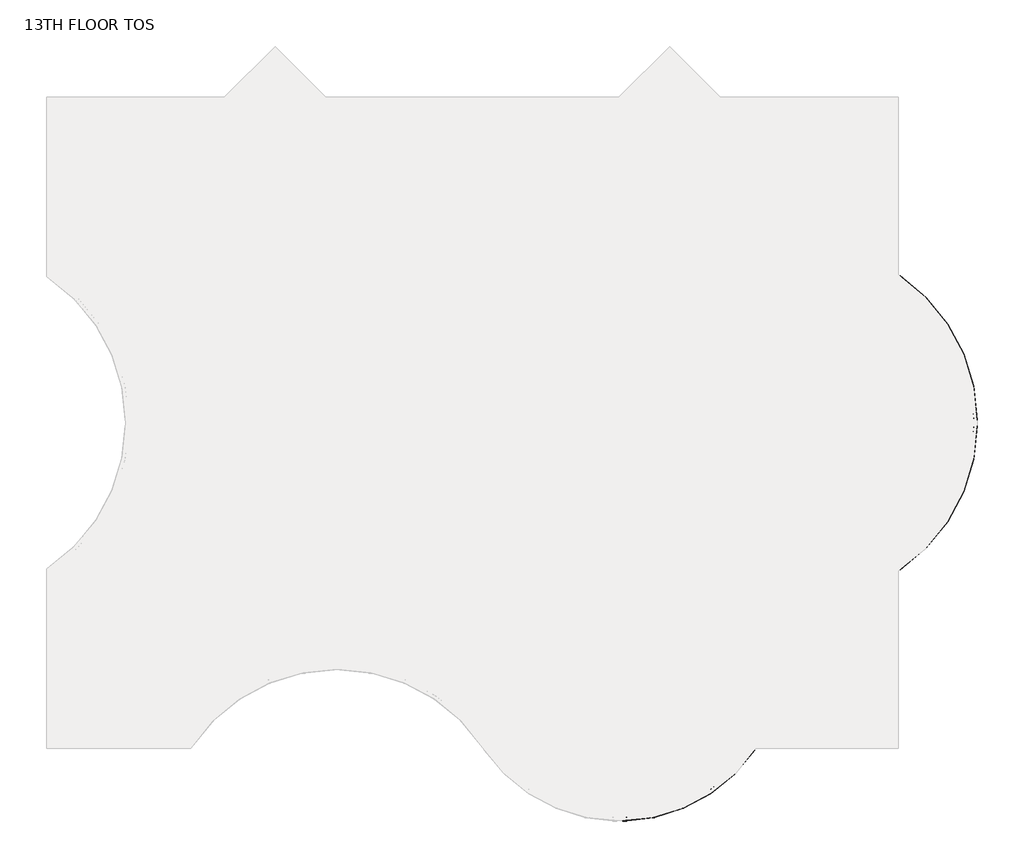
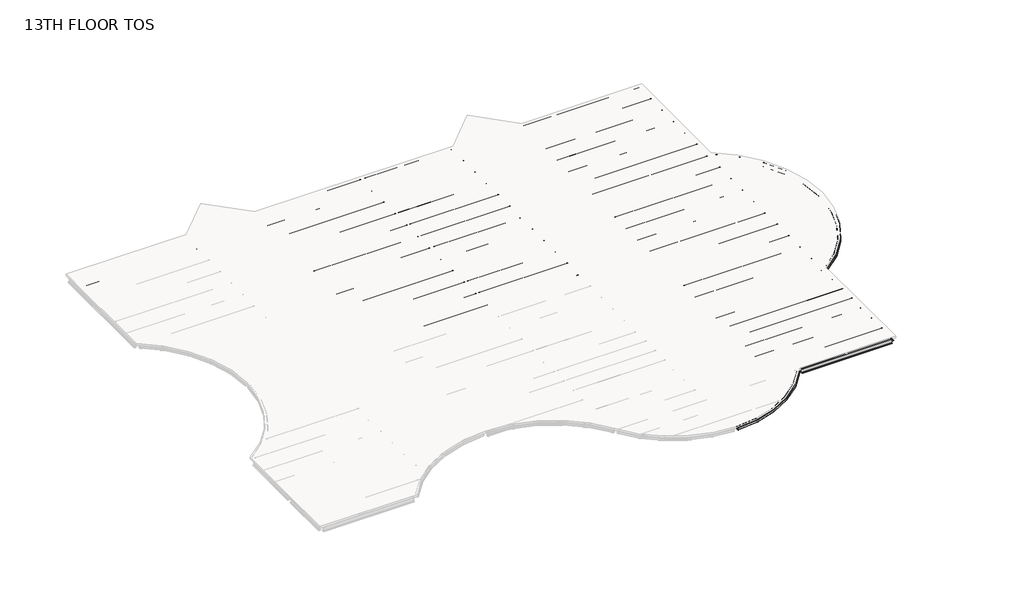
# One storey, part 2 of 2: 110 beams.
"""IFC4 building model written with IfcOpenShell, lengths in millimetres."""

from ifc_helpers import new_model, si_unit, origin, place, context, project, spatial, transform, mapped, element, save
from components import m_hss_square_hss203_2x203_2x9_5_28e91a4e, m_hss_square_hss203_2x203_2x9_5_f31329aa, m_hss_square_hss203_2x203_2x9_5_63507dff, ub_universal_beams_ub254x102x28_7812688d, ub_universal_beams_ub254x102x28_4a38c177, ub_universal_beams_ub305x165x40_c4d0385b, ub_universal_beams_ub305x165x40_19965e16, ub_universal_beams_ub305x165x40_d3abc31d, ub_universal_beams_ub305x165x40_0c73730f, ub_universal_beams_ub305x165x40_2a963f0c, ub_universal_beams_ub305x165x40_9ce7f2ee, ub_universal_beams_ub305x165x40_d184adfd, ub_universal_beams_ub305x165x40_bc7dc938, ub_universal_beams_ub305x165x40_b4233d25, ub_universal_beams_ub356x171x51_c708c058, ub_universal_beams_ub356x171x51_ef72dcdd, ub_universal_beams_ub356x171x51_10b3c54f, ub_universal_beams_ub356x171x51_4c9fd821, ub_universal_beams_ub356x171x51_d1a87c3c, ub_universal_beams_ub356x171x51_fa75724b, ub_universal_beams_ub356x171x51_68db896e, ub_universal_beams_ub356x171x51_c634c4a6, ub_universal_beams_ub356x171x51_995f1560, ub_universal_beams_ub356x171x51_dfc36663, ub_universal_beams_ub356x171x51_11d6b780, ub_universal_beams_ub356x171x51_76b2d20b, ub_universal_beams_ub356x171x51_145ecd4b, ub_universal_beams_ub356x171x51_c7dff8d2, ub_universal_beams_ub356x171x51_8a345439, ub_universal_beams_ub356x171x51_6da510e9, ub_universal_beams_ub356x171x51_e97f8d2e, ub_universal_beams_ub356x171x51_a38b99de, ub_universal_beams_ub356x171x51_d8f4cdde, ub_universal_beams_ub356x171x51_475301e6, ub_universal_beams_ub356x171x51_c03c70fb, ub_universal_beams_ub356x171x51_741bae58

model = new_model("IFC4")

# Units and contexts
model_context = context("Model", 3, world=origin())
ifc_project = project(units=[si_unit("LENGTHUNIT", "METRE", prefix="MILLI")], contexts=[model_context])

# Site, building, storey
site = spatial("IfcSite", under=ifc_project)
building = spatial("IfcBuilding", under=site)
storey = spatial("IfcBuildingStorey", under=building, Name="13TH FLOOR TOS", Elevation=59283.6)

# Beams
placement = place(None, origin())
m_hss_square_hss203_2x203_2x9_5_shape = m_hss_square_hss203_2x203_2x9_5_28e91a4e(model_context)
element("IfcBeam", 1, ObjectType="M_HSS Square : HSS203.2X203.2X9.5", at=placement, inside=storey, context=model_context, shape_type="MappedRepresentation", body=[
    mapped(m_hss_square_hss203_2x203_2x9_5_shape, transform((44027.575, 24539.575, 59182.1), x_axis=(0.8332810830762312, -0.5528495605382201, 0.0), y_axis=(0.5528495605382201, 0.8332810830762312, 0.0), z_axis=(0.0, 0.0, 1.0))),
])
m_hss_square_hss203_2x203_2x9_5_2_shape = m_hss_square_hss203_2x203_2x9_5_f31329aa(model_context)
element("IfcBeam", 2, ObjectType="M_HSS Square : HSS203.2X203.2X9.5", at=placement, inside=storey, context=model_context, shape_type="MappedRepresentation", body=[
    mapped(m_hss_square_hss203_2x203_2x9_5_2_shape, transform((44027.575, 9299.575, 59182.1), x_axis=(0.8332810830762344, 0.5528495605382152, 0.0), y_axis=(-0.5528495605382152, 0.8332810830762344, 0.0), z_axis=(0.0, 0.0, 1.0))),
])
m_hss_square_hss203_2x203_2x9_5_3_shape = m_hss_square_hss203_2x203_2x9_5_63507dff(model_context)
element("IfcBeam", 3, ObjectType="M_HSS Square : HSS203.2X203.2X9.5", at=placement, inside=storey, context=model_context, shape_type="MappedRepresentation", body=[
    mapped(m_hss_square_hss203_2x203_2x9_5_3_shape, transform((36716.575, 155.575, 59182.1), x_axis=(-0.5530174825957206, -0.8331696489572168, 0.0), y_axis=(0.8331696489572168, -0.5530174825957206, 0.0), z_axis=(0.0, 0.0, 1.0))),
])
ub_universal_beams_ub254x102x28_shape = ub_universal_beams_ub254x102x28_7812688d(model_context)
element("IfcBeam", 4, ObjectType="UB-Universal Beams : UB254x102x28", at=placement, inside=storey, context=model_context, shape_type="MappedRepresentation", body=[
    mapped(ub_universal_beams_ub254x102x28_shape, transform((10592.575, 34976.575, 59153.4), x_axis=(0.7071067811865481, 0.7071067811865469, 0.0), y_axis=(-0.7071067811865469, 0.7071067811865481, 0.0), z_axis=(0.0, 0.0, 1.0))),
])
element("IfcBeam", 5, ObjectType="UB-Universal Beams : UB254x102x28", at=placement, inside=storey, context=model_context, shape_type="MappedRepresentation", body=[
    mapped(ub_universal_beams_ub254x102x28_shape, transform((31004.575, 34976.575, 59153.4), x_axis=(0.7071067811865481, 0.7071067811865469, 0.0), y_axis=(-0.7071067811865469, 0.7071067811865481, 0.0), z_axis=(0.0, 0.0, 1.0))),
])
ub_universal_beams_ub254x102x28_2_shape = ub_universal_beams_ub254x102x28_4a38c177(model_context)
element("IfcBeam", 6, ObjectType="UB-Universal Beams : UB254x102x28", at=placement, inside=storey, context=model_context, shape_type="MappedRepresentation", body=[
    mapped(ub_universal_beams_ub254x102x28_2_shape, transform((13178.575, 34976.575, 59153.4), x_axis=(0.707106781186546, -0.707106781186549, 0.0), y_axis=(0.707106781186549, 0.707106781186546, 0.0), z_axis=(0.0, 0.0, 1.0))),
])
element("IfcBeam", 7, ObjectType="UB-Universal Beams : UB254x102x28", at=placement, inside=storey, context=model_context, shape_type="MappedRepresentation", body=[
    mapped(ub_universal_beams_ub254x102x28_2_shape, transform((33590.575, 34976.575, 59153.4), x_axis=(0.7071067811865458, -0.7071067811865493, 0.0), y_axis=(0.7071067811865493, 0.7071067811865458, 0.0), z_axis=(0.0, 0.0, 1.0))),
])
ub_universal_beams_ub305x165x40_shape = ub_universal_beams_ub305x165x40_c4d0385b(model_context)
element("IfcBeam", 8, ObjectType="UB-Universal Beams : UB305x165x40", at=placement, inside=storey, context=model_context, shape_type="MappedRepresentation", body=[
    mapped(ub_universal_beams_ub305x165x40_shape, transform((4727.575, 32159.575, 59131.9), x_axis=(1.0, 0.0, 0.0), y_axis=(0.0, 1.0, 0.0), z_axis=(0.0, 0.0, 1.0))),
])
element("IfcBeam", 9, ObjectType="UB-Universal Beams : UB305x165x40", at=placement, inside=storey, context=model_context, shape_type="MappedRepresentation", body=[
    mapped(ub_universal_beams_ub305x165x40_shape, transform((39455.575, 32159.575, 59131.9), x_axis=(1.0, 0.0, 0.0), y_axis=(0.0, 1.0, 0.0), z_axis=(0.0, 0.0, 1.0))),
])
element("IfcBeam", 10, ObjectType="UB-Universal Beams : UB305x165x40", at=placement, inside=storey, context=model_context, shape_type="MappedRepresentation", body=[
    mapped(ub_universal_beams_ub305x165x40_shape, transform((39455.575, 30635.575, 59131.9), x_axis=(1.0, 0.0, 0.0), y_axis=(0.0, 1.0, 0.0), z_axis=(0.0, 0.0, 1.0))),
])
element("IfcBeam", 11, ObjectType="UB-Universal Beams : UB305x165x40", at=placement, inside=storey, context=model_context, shape_type="MappedRepresentation", body=[
    mapped(ub_universal_beams_ub305x165x40_shape, transform((39455.575, 29111.575, 59131.9), x_axis=(1.0, 0.0, 0.0), y_axis=(0.0, 1.0, 0.0), z_axis=(0.0, 0.0, 1.0))),
])
element("IfcBeam", 12, ObjectType="UB-Universal Beams : UB305x165x40", at=placement, inside=storey, context=model_context, shape_type="MappedRepresentation", body=[
    mapped(ub_universal_beams_ub305x165x40_shape, transform((39455.575, 27587.575, 59131.9), x_axis=(1.0, 0.0, 0.0), y_axis=(0.0, 1.0, 0.0), z_axis=(0.0, 0.0, 1.0))),
])
element("IfcBeam", 13, ObjectType="UB-Universal Beams : UB305x165x40", at=placement, inside=storey, context=model_context, shape_type="MappedRepresentation", body=[
    mapped(ub_universal_beams_ub305x165x40_shape, transform((39455.575, 26063.575, 59131.9), x_axis=(1.0, 0.0, 0.0), y_axis=(0.0, 1.0, 0.0), z_axis=(0.0, 0.0, 1.0))),
])
element("IfcBeam", 14, ObjectType="UB-Universal Beams : UB305x165x40", at=placement, inside=storey, context=model_context, shape_type="MappedRepresentation", body=[
    mapped(ub_universal_beams_ub305x165x40_shape, transform((39455.575, 23015.575, 59131.9), x_axis=(1.0, 0.0, 0.0), y_axis=(0.0, 1.0, 0.0), z_axis=(0.0, 0.0, 1.0))),
])
element("IfcBeam", 15, ObjectType="UB-Universal Beams : UB305x165x40", at=placement, inside=storey, context=model_context, shape_type="MappedRepresentation", body=[
    mapped(ub_universal_beams_ub305x165x40_shape, transform((39455.575, 21491.575, 59131.9), x_axis=(1.0, 0.0, 0.0), y_axis=(0.0, 1.0, 0.0), z_axis=(0.0, 0.0, 1.0))),
])
element("IfcBeam", 16, ObjectType="UB-Universal Beams : UB305x165x40", at=placement, inside=storey, context=model_context, shape_type="MappedRepresentation", body=[
    mapped(ub_universal_beams_ub305x165x40_shape, transform((39455.575, 19967.575, 59131.9), x_axis=(1.0, 0.0, 0.0), y_axis=(0.0, 1.0, 0.0), z_axis=(0.0, 0.0, 1.0))),
])
element("IfcBeam", 17, ObjectType="UB-Universal Beams : UB305x165x40", at=placement, inside=storey, context=model_context, shape_type="MappedRepresentation", body=[
    mapped(ub_universal_beams_ub305x165x40_shape, transform((39455.575, 18443.575, 59131.9), x_axis=(1.0, 0.0, 0.0), y_axis=(0.0, 1.0, 0.0), z_axis=(0.0, 0.0, 1.0))),
])
element("IfcBeam", 18, ObjectType="UB-Universal Beams : UB305x165x40", at=placement, inside=storey, context=model_context, shape_type="MappedRepresentation", body=[
    mapped(ub_universal_beams_ub305x165x40_shape, transform((39455.575, 15395.575, 59131.9), x_axis=(1.0, 0.0, 0.0), y_axis=(0.0, 1.0, 0.0), z_axis=(0.0, 0.0, 1.0))),
])
element("IfcBeam", 19, ObjectType="UB-Universal Beams : UB305x165x40", at=placement, inside=storey, context=model_context, shape_type="MappedRepresentation", body=[
    mapped(ub_universal_beams_ub305x165x40_shape, transform((39455.575, 13871.575, 59131.9), x_axis=(1.0, 0.0, 0.0), y_axis=(0.0, 1.0, 0.0), z_axis=(0.0, 0.0, 1.0))),
])
element("IfcBeam", 20, ObjectType="UB-Universal Beams : UB305x165x40", at=placement, inside=storey, context=model_context, shape_type="MappedRepresentation", body=[
    mapped(ub_universal_beams_ub305x165x40_shape, transform((39455.575, 12347.575, 59131.9), x_axis=(1.0, 0.0, 0.0), y_axis=(0.0, 1.0, 0.0), z_axis=(0.0, 0.0, 1.0))),
])
element("IfcBeam", 21, ObjectType="UB-Universal Beams : UB305x165x40", at=placement, inside=storey, context=model_context, shape_type="MappedRepresentation", body=[
    mapped(ub_universal_beams_ub305x165x40_shape, transform((39455.575, 10823.575, 59131.9), x_axis=(1.0, 0.0, 0.0), y_axis=(0.0, 1.0, 0.0), z_axis=(0.0, 0.0, 1.0))),
])
element("IfcBeam", 22, ObjectType="UB-Universal Beams : UB305x165x40", at=placement, inside=storey, context=model_context, shape_type="MappedRepresentation", body=[
    mapped(ub_universal_beams_ub305x165x40_shape, transform((39455.575, 5508.325, 59131.9), x_axis=(-1.0, 0.0, 0.0), y_axis=(0.0, -1.0, 0.0), z_axis=(0.0, 0.0, 1.0))),
])
element("IfcBeam", 23, ObjectType="UB-Universal Beams : UB305x165x40", at=placement, inside=storey, context=model_context, shape_type="MappedRepresentation", body=[
    mapped(ub_universal_beams_ub305x165x40_shape, transform((39455.575, 6772.075, 59131.9), x_axis=(-1.0, 0.0, 0.0), y_axis=(0.0, -1.0, 0.0), z_axis=(0.0, 0.0, 1.0))),
])
element("IfcBeam", 24, ObjectType="UB-Universal Beams : UB305x165x40", at=placement, inside=storey, context=model_context, shape_type="MappedRepresentation", body=[
    mapped(ub_universal_beams_ub305x165x40_shape, transform((39455.575, 8035.825, 59131.9), x_axis=(-1.0, 0.0, 0.0), y_axis=(0.0, -1.0, 0.0), z_axis=(0.0, 0.0, 1.0))),
])
element("IfcBeam", 25, ObjectType="UB-Universal Beams : UB305x165x40", at=placement, inside=storey, context=model_context, shape_type="MappedRepresentation", body=[
    mapped(ub_universal_beams_ub305x165x40_shape, transform((39455.575, 1518.575, 59131.9), x_axis=(-1.0, 0.0, 0.0), y_axis=(0.0, -1.0, 0.0), z_axis=(0.0, 0.0, 1.0))),
])
element("IfcBeam", 26, ObjectType="UB-Universal Beams : UB305x165x40", at=placement, inside=storey, context=model_context, shape_type="MappedRepresentation", body=[
    mapped(ub_universal_beams_ub305x165x40_shape, transform((39455.575, 2881.575, 59131.9), x_axis=(-1.0, 0.0, 0.0), y_axis=(0.0, -1.0, 0.0), z_axis=(0.0, 0.0, 1.0))),
])
ub_universal_beams_ub305x165x40_2_shape = ub_universal_beams_ub305x165x40_19965e16(model_context)
element("IfcBeam", 27, ObjectType="UB-Universal Beams : UB305x165x40", at=placement, inside=storey, context=model_context, shape_type="MappedRepresentation", body=[
    mapped(ub_universal_beams_ub305x165x40_2_shape, transform((11885.575, 34803.325, 59131.9), x_axis=(1.0, 0.0, 0.0), y_axis=(0.0, 1.0, 0.0), z_axis=(0.0, 0.0, 1.0))),
])
element("IfcBeam", 28, ObjectType="UB-Universal Beams : UB305x165x40", at=placement, inside=storey, context=model_context, shape_type="MappedRepresentation", body=[
    mapped(ub_universal_beams_ub305x165x40_2_shape, transform((32297.575, 34803.325, 59131.9), x_axis=(1.0, 0.0, 0.0), y_axis=(0.0, 1.0, 0.0), z_axis=(0.0, 0.0, 1.0))),
])
ub_universal_beams_ub305x165x40_3_shape = ub_universal_beams_ub305x165x40_d3abc31d(model_context)
element("IfcBeam", 29, ObjectType="UB-Universal Beams : UB305x165x40", at=placement, inside=storey, context=model_context, shape_type="MappedRepresentation", body=[
    mapped(ub_universal_beams_ub305x165x40_3_shape, transform((11885.575, 33337.075, 59131.9), x_axis=(1.0, 0.0, 0.0), y_axis=(0.0, 1.0, 0.0), z_axis=(0.0, 0.0, 1.0))),
])
element("IfcBeam", 30, ObjectType="UB-Universal Beams : UB305x165x40", at=placement, inside=storey, context=model_context, shape_type="MappedRepresentation", body=[
    mapped(ub_universal_beams_ub305x165x40_3_shape, transform((11885.575, 31870.825, 59131.9), x_axis=(1.0, 0.0, 0.0), y_axis=(0.0, 1.0, 0.0), z_axis=(0.0, 0.0, 1.0))),
])
element("IfcBeam", 31, ObjectType="UB-Universal Beams : UB305x165x40", at=placement, inside=storey, context=model_context, shape_type="MappedRepresentation", body=[
    mapped(ub_universal_beams_ub305x165x40_3_shape, transform((11885.575, 30404.575, 59131.9), x_axis=(1.0, 0.0, 0.0), y_axis=(0.0, 1.0, 0.0), z_axis=(0.0, 0.0, 1.0))),
])
element("IfcBeam", 32, ObjectType="UB-Universal Beams : UB305x165x40", at=placement, inside=storey, context=model_context, shape_type="MappedRepresentation", body=[
    mapped(ub_universal_beams_ub305x165x40_3_shape, transform((32297.575, 33337.075, 59131.9), x_axis=(1.0, 0.0, 0.0), y_axis=(0.0, 1.0, 0.0), z_axis=(0.0, 0.0, 1.0))),
])
element("IfcBeam", 33, ObjectType="UB-Universal Beams : UB305x165x40", at=placement, inside=storey, context=model_context, shape_type="MappedRepresentation", body=[
    mapped(ub_universal_beams_ub305x165x40_3_shape, transform((32297.575, 31870.825, 59131.9), x_axis=(1.0, 0.0, 0.0), y_axis=(0.0, 1.0, 0.0), z_axis=(0.0, 0.0, 1.0))),
])
element("IfcBeam", 34, ObjectType="UB-Universal Beams : UB305x165x40", at=placement, inside=storey, context=model_context, shape_type="MappedRepresentation", body=[
    mapped(ub_universal_beams_ub305x165x40_3_shape, transform((32297.575, 30404.575, 59131.9), x_axis=(1.0, 0.0, 0.0), y_axis=(0.0, 1.0, 0.0), z_axis=(0.0, 0.0, 1.0))),
])
element("IfcBeam", 35, ObjectType="UB-Universal Beams : UB305x165x40", at=placement, inside=storey, context=model_context, shape_type="MappedRepresentation", body=[
    mapped(ub_universal_beams_ub305x165x40_3_shape, transform((32297.575, 28938.325, 59131.9), x_axis=(1.0, 0.0, 0.0), y_axis=(0.0, 1.0, 0.0), z_axis=(0.0, 0.0, 1.0))),
])
element("IfcBeam", 36, ObjectType="UB-Universal Beams : UB305x165x40", at=placement, inside=storey, context=model_context, shape_type="MappedRepresentation", body=[
    mapped(ub_universal_beams_ub305x165x40_3_shape, transform((32297.575, 27472.075, 59131.9), x_axis=(1.0, 0.0, 0.0), y_axis=(0.0, 1.0, 0.0), z_axis=(0.0, 0.0, 1.0))),
])
element("IfcBeam", 37, ObjectType="UB-Universal Beams : UB305x165x40", at=placement, inside=storey, context=model_context, shape_type="MappedRepresentation", body=[
    mapped(ub_universal_beams_ub305x165x40_3_shape, transform((32297.575, 26005.825, 59131.9), x_axis=(1.0, 0.0, 0.0), y_axis=(0.0, 1.0, 0.0), z_axis=(0.0, 0.0, 1.0))),
])
element("IfcBeam", 38, ObjectType="UB-Universal Beams : UB305x165x40", at=placement, inside=storey, context=model_context, shape_type="MappedRepresentation", body=[
    mapped(ub_universal_beams_ub305x165x40_3_shape, transform((32297.575, 1518.575, 59131.9), x_axis=(-1.0, 0.0, 0.0), y_axis=(0.0, -1.0, 0.0), z_axis=(0.0, 0.0, 1.0))),
])
element("IfcBeam", 39, ObjectType="UB-Universal Beams : UB305x165x40", at=placement, inside=storey, context=model_context, shape_type="MappedRepresentation", body=[
    mapped(ub_universal_beams_ub305x165x40_3_shape, transform((32297.575, 2881.575, 59131.9), x_axis=(-1.0, 0.0, 0.0), y_axis=(0.0, -1.0, 0.0), z_axis=(0.0, 0.0, 1.0))),
])
element("IfcBeam", 40, ObjectType="UB-Universal Beams : UB305x165x40", at=placement, inside=storey, context=model_context, shape_type="MappedRepresentation", body=[
    mapped(ub_universal_beams_ub305x165x40_3_shape, transform((32297.575, 5508.325, 59131.9), x_axis=(-1.0, 0.0, 0.0), y_axis=(0.0, -1.0, 0.0), z_axis=(0.0, 0.0, 1.0))),
])
element("IfcBeam", 41, ObjectType="UB-Universal Beams : UB305x165x40", at=placement, inside=storey, context=model_context, shape_type="MappedRepresentation", body=[
    mapped(ub_universal_beams_ub305x165x40_3_shape, transform((32297.575, 6772.075, 59131.9), x_axis=(-1.0, 0.0, 0.0), y_axis=(0.0, -1.0, 0.0), z_axis=(0.0, 0.0, 1.0))),
])
element("IfcBeam", 42, ObjectType="UB-Universal Beams : UB305x165x40", at=placement, inside=storey, context=model_context, shape_type="MappedRepresentation", body=[
    mapped(ub_universal_beams_ub305x165x40_3_shape, transform((32297.575, 8035.825, 59131.9), x_axis=(-1.0, 0.0, 0.0), y_axis=(0.0, -1.0, 0.0), z_axis=(0.0, 0.0, 1.0))),
])
element("IfcBeam", 43, ObjectType="UB-Universal Beams : UB305x165x40", at=placement, inside=storey, context=model_context, shape_type="MappedRepresentation", body=[
    mapped(ub_universal_beams_ub305x165x40_3_shape, transform((32297.575, 15395.575, 59131.9), x_axis=(1.0, 0.0, 0.0), y_axis=(0.0, 1.0, 0.0), z_axis=(0.0, 0.0, 1.0))),
])
element("IfcBeam", 44, ObjectType="UB-Universal Beams : UB305x165x40", at=placement, inside=storey, context=model_context, shape_type="MappedRepresentation", body=[
    mapped(ub_universal_beams_ub305x165x40_3_shape, transform((32297.575, 13871.575, 59131.9), x_axis=(1.0, 0.0, 0.0), y_axis=(0.0, 1.0, 0.0), z_axis=(0.0, 0.0, 1.0))),
])
element("IfcBeam", 45, ObjectType="UB-Universal Beams : UB305x165x40", at=placement, inside=storey, context=model_context, shape_type="MappedRepresentation", body=[
    mapped(ub_universal_beams_ub305x165x40_3_shape, transform((32297.575, 12347.575, 59131.9), x_axis=(1.0, 0.0, 0.0), y_axis=(0.0, 1.0, 0.0), z_axis=(0.0, 0.0, 1.0))),
])
element("IfcBeam", 46, ObjectType="UB-Universal Beams : UB305x165x40", at=placement, inside=storey, context=model_context, shape_type="MappedRepresentation", body=[
    mapped(ub_universal_beams_ub305x165x40_3_shape, transform((32297.575, 10823.575, 59131.9), x_axis=(1.0, 0.0, 0.0), y_axis=(0.0, 1.0, 0.0), z_axis=(0.0, 0.0, 1.0))),
])
element("IfcBeam", 47, ObjectType="UB-Universal Beams : UB305x165x40", at=placement, inside=storey, context=model_context, shape_type="MappedRepresentation", body=[
    mapped(ub_universal_beams_ub305x165x40_3_shape, transform((32297.575, 23015.575, 59131.9), x_axis=(1.0, 0.0, 0.0), y_axis=(0.0, 1.0, 0.0), z_axis=(0.0, 0.0, 1.0))),
])
element("IfcBeam", 48, ObjectType="UB-Universal Beams : UB305x165x40", at=placement, inside=storey, context=model_context, shape_type="MappedRepresentation", body=[
    mapped(ub_universal_beams_ub305x165x40_3_shape, transform((32297.575, 21491.575, 59131.9), x_axis=(1.0, 0.0, 0.0), y_axis=(0.0, 1.0, 0.0), z_axis=(0.0, 0.0, 1.0))),
])
element("IfcBeam", 49, ObjectType="UB-Universal Beams : UB305x165x40", at=placement, inside=storey, context=model_context, shape_type="MappedRepresentation", body=[
    mapped(ub_universal_beams_ub305x165x40_3_shape, transform((32297.575, 19967.575, 59131.9), x_axis=(1.0, 0.0, 0.0), y_axis=(0.0, 1.0, 0.0), z_axis=(0.0, 0.0, 1.0))),
])
element("IfcBeam", 50, ObjectType="UB-Universal Beams : UB305x165x40", at=placement, inside=storey, context=model_context, shape_type="MappedRepresentation", body=[
    mapped(ub_universal_beams_ub305x165x40_3_shape, transform((32297.575, 18443.575, 59131.9), x_axis=(1.0, 0.0, 0.0), y_axis=(0.0, 1.0, 0.0), z_axis=(0.0, 0.0, 1.0))),
])
ub_universal_beams_ub305x165x40_4_shape = ub_universal_beams_ub305x165x40_0c73730f(model_context)
element("IfcBeam", 51, ObjectType="UB-Universal Beams : UB305x165x40", at=placement, inside=storey, context=model_context, shape_type="MappedRepresentation", body=[
    mapped(ub_universal_beams_ub305x165x40_4_shape, transform((18591.075, 32159.575, 59131.9), x_axis=(1.0, 0.0, 0.0), y_axis=(0.0, 1.0, 0.0), z_axis=(0.0, 0.0, 1.0))),
])
element("IfcBeam", 52, ObjectType="UB-Universal Beams : UB305x165x40", at=placement, inside=storey, context=model_context, shape_type="MappedRepresentation", body=[
    mapped(ub_universal_beams_ub305x165x40_4_shape, transform((18591.075, 30635.575, 59131.9), x_axis=(1.0, 0.0, 0.0), y_axis=(0.0, 1.0, 0.0), z_axis=(0.0, 0.0, 1.0))),
])
element("IfcBeam", 53, ObjectType="UB-Universal Beams : UB305x165x40", at=placement, inside=storey, context=model_context, shape_type="MappedRepresentation", body=[
    mapped(ub_universal_beams_ub305x165x40_4_shape, transform((18591.075, 29111.575, 59131.9), x_axis=(1.0, 0.0, 0.0), y_axis=(0.0, 1.0, 0.0), z_axis=(0.0, 0.0, 1.0))),
])
element("IfcBeam", 54, ObjectType="UB-Universal Beams : UB305x165x40", at=placement, inside=storey, context=model_context, shape_type="MappedRepresentation", body=[
    mapped(ub_universal_beams_ub305x165x40_4_shape, transform((18591.075, 27587.575, 59131.9), x_axis=(1.0, 0.0, 0.0), y_axis=(0.0, 1.0, 0.0), z_axis=(0.0, 0.0, 1.0))),
])
element("IfcBeam", 55, ObjectType="UB-Universal Beams : UB305x165x40", at=placement, inside=storey, context=model_context, shape_type="MappedRepresentation", body=[
    mapped(ub_universal_beams_ub305x165x40_4_shape, transform((18591.075, 26063.575, 59131.9), x_axis=(1.0, 0.0, 0.0), y_axis=(0.0, 1.0, 0.0), z_axis=(0.0, 0.0, 1.0))),
])
element("IfcBeam", 56, ObjectType="UB-Universal Beams : UB305x165x40", at=placement, inside=storey, context=model_context, shape_type="MappedRepresentation", body=[
    mapped(ub_universal_beams_ub305x165x40_4_shape, transform((18591.075, 23015.575, 59131.9), x_axis=(1.0, 0.0, 0.0), y_axis=(0.0, 1.0, 0.0), z_axis=(0.0, 0.0, 1.0))),
])
element("IfcBeam", 57, ObjectType="UB-Universal Beams : UB305x165x40", at=placement, inside=storey, context=model_context, shape_type="MappedRepresentation", body=[
    mapped(ub_universal_beams_ub305x165x40_4_shape, transform((18591.075, 21491.575, 59131.9), x_axis=(1.0, 0.0, 0.0), y_axis=(0.0, 1.0, 0.0), z_axis=(0.0, 0.0, 1.0))),
])
element("IfcBeam", 58, ObjectType="UB-Universal Beams : UB305x165x40", at=placement, inside=storey, context=model_context, shape_type="MappedRepresentation", body=[
    mapped(ub_universal_beams_ub305x165x40_4_shape, transform((18591.075, 19967.575, 59131.9), x_axis=(1.0, 0.0, 0.0), y_axis=(0.0, 1.0, 0.0), z_axis=(0.0, 0.0, 1.0))),
])
element("IfcBeam", 59, ObjectType="UB-Universal Beams : UB305x165x40", at=placement, inside=storey, context=model_context, shape_type="MappedRepresentation", body=[
    mapped(ub_universal_beams_ub305x165x40_4_shape, transform((18591.075, 18443.575, 59131.9), x_axis=(1.0, 0.0, 0.0), y_axis=(0.0, 1.0, 0.0), z_axis=(0.0, 0.0, 1.0))),
])
ub_universal_beams_ub305x165x40_5_shape = ub_universal_beams_ub305x165x40_2a963f0c(model_context)
element("IfcBeam", 60, ObjectType="UB-Universal Beams : UB305x165x40", at=placement, inside=storey, context=model_context, shape_type="MappedRepresentation", body=[
    mapped(ub_universal_beams_ub305x165x40_5_shape, transform((26211.075, 32159.575, 59131.9), x_axis=(1.0, 0.0, 0.0), y_axis=(0.0, 1.0, 0.0), z_axis=(0.0, 0.0, 1.0))),
])
element("IfcBeam", 61, ObjectType="UB-Universal Beams : UB305x165x40", at=placement, inside=storey, context=model_context, shape_type="MappedRepresentation", body=[
    mapped(ub_universal_beams_ub305x165x40_5_shape, transform((26211.075, 30635.575, 59131.9), x_axis=(1.0, 0.0, 0.0), y_axis=(0.0, 1.0, 0.0), z_axis=(0.0, 0.0, 1.0))),
])
element("IfcBeam", 62, ObjectType="UB-Universal Beams : UB305x165x40", at=placement, inside=storey, context=model_context, shape_type="MappedRepresentation", body=[
    mapped(ub_universal_beams_ub305x165x40_5_shape, transform((26211.075, 29111.575, 59131.9), x_axis=(1.0, 0.0, 0.0), y_axis=(0.0, 1.0, 0.0), z_axis=(0.0, 0.0, 1.0))),
])
element("IfcBeam", 63, ObjectType="UB-Universal Beams : UB305x165x40", at=placement, inside=storey, context=model_context, shape_type="MappedRepresentation", body=[
    mapped(ub_universal_beams_ub305x165x40_5_shape, transform((26211.075, 27587.575, 59131.9), x_axis=(1.0, 0.0, 0.0), y_axis=(0.0, 1.0, 0.0), z_axis=(0.0, 0.0, 1.0))),
])
element("IfcBeam", 64, ObjectType="UB-Universal Beams : UB305x165x40", at=placement, inside=storey, context=model_context, shape_type="MappedRepresentation", body=[
    mapped(ub_universal_beams_ub305x165x40_5_shape, transform((26211.075, 26063.575, 59131.9), x_axis=(1.0, 0.0, 0.0), y_axis=(0.0, 1.0, 0.0), z_axis=(0.0, 0.0, 1.0))),
])
element("IfcBeam", 65, ObjectType="UB-Universal Beams : UB305x165x40", at=placement, inside=storey, context=model_context, shape_type="MappedRepresentation", body=[
    mapped(ub_universal_beams_ub305x165x40_5_shape, transform((26211.075, 23015.575, 59131.9), x_axis=(1.0, 0.0, 0.0), y_axis=(0.0, 1.0, 0.0), z_axis=(0.0, 0.0, 1.0))),
])
element("IfcBeam", 66, ObjectType="UB-Universal Beams : UB305x165x40", at=placement, inside=storey, context=model_context, shape_type="MappedRepresentation", body=[
    mapped(ub_universal_beams_ub305x165x40_5_shape, transform((26211.075, 21491.575, 59131.9), x_axis=(1.0, 0.0, 0.0), y_axis=(0.0, 1.0, 0.0), z_axis=(0.0, 0.0, 1.0))),
])
element("IfcBeam", 67, ObjectType="UB-Universal Beams : UB305x165x40", at=placement, inside=storey, context=model_context, shape_type="MappedRepresentation", body=[
    mapped(ub_universal_beams_ub305x165x40_5_shape, transform((26211.075, 19967.575, 59131.9), x_axis=(1.0, 0.0, 0.0), y_axis=(0.0, 1.0, 0.0), z_axis=(0.0, 0.0, 1.0))),
])
element("IfcBeam", 68, ObjectType="UB-Universal Beams : UB305x165x40", at=placement, inside=storey, context=model_context, shape_type="MappedRepresentation", body=[
    mapped(ub_universal_beams_ub305x165x40_5_shape, transform((26211.075, 18443.575, 59131.9), x_axis=(1.0, 0.0, 0.0), y_axis=(0.0, 1.0, 0.0), z_axis=(0.0, 0.0, 1.0))),
])
ub_universal_beams_ub305x165x40_6_shape = ub_universal_beams_ub305x165x40_9ce7f2ee(model_context)
element("IfcBeam", 69, ObjectType="UB-Universal Beams : UB305x165x40", at=placement, inside=storey, context=model_context, shape_type="MappedRepresentation", body=[
    mapped(ub_universal_beams_ub305x165x40_6_shape, transform((44907.9405309, 23015.575, 59131.9), x_axis=(1.0, 0.0, 0.0), y_axis=(0.0, 1.0, 0.0), z_axis=(0.0, 0.0, 1.0))),
])
element("IfcBeam", 70, ObjectType="UB-Universal Beams : UB305x165x40", at=placement, inside=storey, context=model_context, shape_type="MappedRepresentation", body=[
    mapped(ub_universal_beams_ub305x165x40_6_shape, transform((44907.9405309, 10823.575, 59131.9), x_axis=(1.0, 0.0, 0.0), y_axis=(0.0, 1.0, 0.0), z_axis=(0.0, 0.0, 1.0))),
])
ub_universal_beams_ub305x165x40_7_shape = ub_universal_beams_ub305x165x40_d184adfd(model_context)
element("IfcBeam", 71, ObjectType="UB-Universal Beams : UB305x165x40", at=placement, inside=storey, context=model_context, shape_type="MappedRepresentation", body=[
    mapped(ub_universal_beams_ub305x165x40_7_shape, transform((45459.5874928, 21491.575, 59131.9), x_axis=(1.0, 0.0, 0.0), y_axis=(0.0, 1.0, 0.0), z_axis=(0.0, 0.0, 1.0))),
])
element("IfcBeam", 72, ObjectType="UB-Universal Beams : UB305x165x40", at=placement, inside=storey, context=model_context, shape_type="MappedRepresentation", body=[
    mapped(ub_universal_beams_ub305x165x40_7_shape, transform((45459.5874928, 12347.575, 59131.9), x_axis=(1.0, 0.0, 0.0), y_axis=(0.0, 1.0, 0.0), z_axis=(0.0, 0.0, 1.0))),
])
ub_universal_beams_ub305x165x40_8_shape = ub_universal_beams_ub305x165x40_bc7dc938(model_context)
element("IfcBeam", 73, ObjectType="UB-Universal Beams : UB305x165x40", at=placement, inside=storey, context=model_context, shape_type="MappedRepresentation", body=[
    mapped(ub_universal_beams_ub305x165x40_8_shape, transform((45810.6153272, 19967.575, 59131.9), x_axis=(1.0, 0.0, 0.0), y_axis=(0.0, 1.0, 0.0), z_axis=(0.0, 0.0, 1.0))),
])
element("IfcBeam", 74, ObjectType="UB-Universal Beams : UB305x165x40", at=placement, inside=storey, context=model_context, shape_type="MappedRepresentation", body=[
    mapped(ub_universal_beams_ub305x165x40_8_shape, transform((45810.6153272, 13871.575, 59131.9), x_axis=(1.0, 0.0, 0.0), y_axis=(0.0, 1.0, 0.0), z_axis=(0.0, 0.0, 1.0))),
])
ub_universal_beams_ub305x165x40_9_shape = ub_universal_beams_ub305x165x40_b4233d25(model_context)
element("IfcBeam", 75, ObjectType="UB-Universal Beams : UB305x165x40", at=placement, inside=storey, context=model_context, shape_type="MappedRepresentation", body=[
    mapped(ub_universal_beams_ub305x165x40_9_shape, transform((46008.1318611, 18443.575, 59131.9), x_axis=(1.0, 0.0, 0.0), y_axis=(0.0, 1.0, 0.0), z_axis=(0.0, 0.0, 1.0))),
])
element("IfcBeam", 76, ObjectType="UB-Universal Beams : UB305x165x40", at=placement, inside=storey, context=model_context, shape_type="MappedRepresentation", body=[
    mapped(ub_universal_beams_ub305x165x40_9_shape, transform((46008.1318611, 15395.575, 59131.9), x_axis=(1.0, 0.0, 0.0), y_axis=(0.0, 1.0, 0.0), z_axis=(0.0, 0.0, 1.0))),
])
ub_universal_beams_ub356x171x51_shape = ub_universal_beams_ub356x171x51_c708c058(model_context)
element("IfcBeam", 77, ObjectType="UB-Universal Beams : UB356x171x51", at=placement, inside=storey, context=model_context, shape_type="MappedRepresentation", body=[
    mapped(ub_universal_beams_ub356x171x51_shape, transform((2200.075, 33683.575, 59106.1), x_axis=(1.0, 0.0, 0.0), y_axis=(0.0, 1.0, 0.0), z_axis=(0.0, 0.0, 1.0))),
])
ub_universal_beams_ub356x171x51_2_shape = ub_universal_beams_ub356x171x51_ef72dcdd(model_context)
element("IfcBeam", 78, ObjectType="UB-Universal Beams : UB356x171x51", at=placement, inside=storey, context=model_context, shape_type="MappedRepresentation", body=[
    mapped(ub_universal_beams_ub356x171x51_2_shape, transform((6772.075, 33683.575, 59106.1), x_axis=(1.0, 0.0, 0.0), y_axis=(0.0, 1.0, 0.0), z_axis=(0.0, 0.0, 1.0))),
])
element("IfcBeam", 79, ObjectType="UB-Universal Beams : UB356x171x51", at=placement, inside=storey, context=model_context, shape_type="MappedRepresentation", body=[
    mapped(ub_universal_beams_ub356x171x51_2_shape, transform((34883.575, 6772.075, 59106.1), x_axis=(0.0, -1.0, 0.0), y_axis=(1.0, 0.0, 0.0), z_axis=(0.0, 0.0, 1.0))),
])
ub_universal_beams_ub356x171x51_3_shape = ub_universal_beams_ub356x171x51_10b3c54f(model_context)
element("IfcBeam", 80, ObjectType="UB-Universal Beams : UB356x171x51", at=placement, inside=storey, context=model_context, shape_type="MappedRepresentation", body=[
    mapped(ub_universal_beams_ub356x171x51_3_shape, transform((18591.075, 33683.575, 59106.1), x_axis=(1.0, 0.0, 0.0), y_axis=(0.0, 1.0, 0.0), z_axis=(0.0, 0.0, 1.0))),
])
ub_universal_beams_ub356x171x51_4_shape = ub_universal_beams_ub356x171x51_4c9fd821(model_context)
element("IfcBeam", 81, ObjectType="UB-Universal Beams : UB356x171x51", at=placement, inside=storey, context=model_context, shape_type="MappedRepresentation", body=[
    mapped(ub_universal_beams_ub356x171x51_4_shape, transform((26211.075, 33683.575, 59106.1), x_axis=(1.0, 0.0, 0.0), y_axis=(0.0, 1.0, 0.0), z_axis=(0.0, 0.0, 1.0))),
])
ub_universal_beams_ub356x171x51_5_shape = ub_universal_beams_ub356x171x51_d1a87c3c(model_context)
element("IfcBeam", 82, ObjectType="UB-Universal Beams : UB356x171x51", at=placement, inside=storey, context=model_context, shape_type="MappedRepresentation", body=[
    mapped(ub_universal_beams_ub356x171x51_5_shape, transform((39455.575, 33683.575, 59106.1), x_axis=(1.0, 0.0, 0.0), y_axis=(0.0, 1.0, 0.0), z_axis=(0.0, 0.0, 1.0))),
])
ub_universal_beams_ub356x171x51_6_shape = ub_universal_beams_ub356x171x51_fa75724b(model_context)
element("IfcBeam", 83, ObjectType="UB-Universal Beams : UB356x171x51", at=placement, inside=storey, context=model_context, shape_type="MappedRepresentation", body=[
    mapped(ub_universal_beams_ub356x171x51_6_shape, transform((44027.575, 29111.575, 59106.1), x_axis=(0.0, -1.0, 0.0), y_axis=(1.0, 0.0, 0.0), z_axis=(0.0, 0.0, 1.0))),
])
ub_universal_beams_ub356x171x51_7_shape = ub_universal_beams_ub356x171x51_68db896e(model_context)
element("IfcBeam", 84, ObjectType="UB-Universal Beams : UB356x171x51", at=placement, inside=storey, context=model_context, shape_type="MappedRepresentation", body=[
    mapped(ub_universal_beams_ub356x171x51_7_shape, transform((44027.575, 6772.075, 59106.1), x_axis=(0.0, -1.0, 0.0), y_axis=(1.0, 0.0, 0.0), z_axis=(0.0, 0.0, 1.0))),
])
ub_universal_beams_ub356x171x51_8_shape = ub_universal_beams_ub356x171x51_c634c4a6(model_context)
element("IfcBeam", 85, ObjectType="UB-Universal Beams : UB356x171x51", at=placement, inside=storey, context=model_context, shape_type="MappedRepresentation", body=[
    mapped(ub_universal_beams_ub356x171x51_8_shape, transform((44027.575, 2200.075, 59106.1), x_axis=(0.0, -1.0, 0.0), y_axis=(1.0, 0.0, 0.0), z_axis=(0.0, 0.0, 1.0))),
])
ub_universal_beams_ub356x171x51_9_shape = ub_universal_beams_ub356x171x51_995f1560(model_context)
element("IfcBeam", 86, ObjectType="UB-Universal Beams : UB356x171x51", at=placement, inside=storey, context=model_context, shape_type="MappedRepresentation", body=[
    mapped(ub_universal_beams_ub356x171x51_9_shape, transform((40372.075, 155.575, 59106.1), x_axis=(-1.0, 0.0, 0.0), y_axis=(0.0, -1.0, 0.0), z_axis=(0.0, 0.0, 1.0))),
])
ub_universal_beams_ub356x171x51_10_shape = ub_universal_beams_ub356x171x51_dfc36663(model_context)
element("IfcBeam", 87, ObjectType="UB-Universal Beams : UB356x171x51", at=placement, inside=storey, context=model_context, shape_type="MappedRepresentation", body=[
    mapped(ub_universal_beams_ub356x171x51_10_shape, transform((46072.075, 16919.575, 59106.1), x_axis=(1.0, 0.0, 0.0), y_axis=(0.0, 1.0, 0.0), z_axis=(0.0, 0.0, 1.0))),
])
ub_universal_beams_ub356x171x51_11_shape = ub_universal_beams_ub356x171x51_11d6b780(model_context)
element("IfcBeam", 88, ObjectType="UB-Universal Beams : UB356x171x51", at=placement, inside=storey, context=model_context, shape_type="MappedRepresentation", body=[
    mapped(ub_universal_beams_ub356x171x51_11_shape, transform((32297.575, 24539.575, 59106.1), x_axis=(1.0, 0.0, 0.0), y_axis=(0.0, 1.0, 0.0), z_axis=(0.0, 0.0, 1.0))),
])
element("IfcBeam", 89, ObjectType="UB-Universal Beams : UB356x171x51", at=placement, inside=storey, context=model_context, shape_type="MappedRepresentation", body=[
    mapped(ub_universal_beams_ub356x171x51_11_shape, transform((32297.575, 9299.575, 59106.1), x_axis=(-1.0, 0.0, 0.0), y_axis=(0.0, -1.0, 0.0), z_axis=(0.0, 0.0, 1.0))),
])
element("IfcBeam", 90, ObjectType="UB-Universal Beams : UB356x171x51", at=placement, inside=storey, context=model_context, shape_type="MappedRepresentation", body=[
    mapped(ub_universal_beams_ub356x171x51_11_shape, transform((32297.575, 16919.575, 59106.1), x_axis=(1.0, 0.0, 0.0), y_axis=(0.0, 1.0, 0.0), z_axis=(0.0, 0.0, 1.0))),
])
element("IfcBeam", 91, ObjectType="UB-Universal Beams : UB356x171x51", at=placement, inside=storey, context=model_context, shape_type="MappedRepresentation", body=[
    mapped(ub_universal_beams_ub356x171x51_11_shape, transform((32297.575, 4244.575, 59106.1), x_axis=(-1.0, 0.0, 0.0), y_axis=(0.0, -1.0, 0.0), z_axis=(0.0, 0.0, 1.0))),
])
ub_universal_beams_ub356x171x51_12_shape = ub_universal_beams_ub356x171x51_76b2d20b(model_context)
element("IfcBeam", 92, ObjectType="UB-Universal Beams : UB356x171x51", at=placement, inside=storey, context=model_context, shape_type="MappedRepresentation", body=[
    mapped(ub_universal_beams_ub356x171x51_12_shape, transform((18591.075, 24539.575, 59106.1), x_axis=(1.0, 0.0, 0.0), y_axis=(0.0, 1.0, 0.0), z_axis=(0.0, 0.0, 1.0))),
])
element("IfcBeam", 93, ObjectType="UB-Universal Beams : UB356x171x51", at=placement, inside=storey, context=model_context, shape_type="MappedRepresentation", body=[
    mapped(ub_universal_beams_ub356x171x51_12_shape, transform((18591.075, 16919.575, 59106.1), x_axis=(1.0, 0.0, 0.0), y_axis=(0.0, 1.0, 0.0), z_axis=(0.0, 0.0, 1.0))),
])
ub_universal_beams_ub356x171x51_13_shape = ub_universal_beams_ub356x171x51_145ecd4b(model_context)
element("IfcBeam", 94, ObjectType="UB-Universal Beams : UB356x171x51", at=placement, inside=storey, context=model_context, shape_type="MappedRepresentation", body=[
    mapped(ub_universal_beams_ub356x171x51_13_shape, transform((26211.075, 24539.575, 59106.1), x_axis=(1.0, 0.0, 0.0), y_axis=(0.0, 1.0, 0.0), z_axis=(0.0, 0.0, 1.0))),
])
element("IfcBeam", 95, ObjectType="UB-Universal Beams : UB356x171x51", at=placement, inside=storey, context=model_context, shape_type="MappedRepresentation", body=[
    mapped(ub_universal_beams_ub356x171x51_13_shape, transform((26211.075, 16919.575, 59106.1), x_axis=(1.0, 0.0, 0.0), y_axis=(0.0, 1.0, 0.0), z_axis=(0.0, 0.0, 1.0))),
])
ub_universal_beams_ub356x171x51_14_shape = ub_universal_beams_ub356x171x51_c7dff8d2(model_context)
element("IfcBeam", 96, ObjectType="UB-Universal Beams : UB356x171x51", at=placement, inside=storey, context=model_context, shape_type="MappedRepresentation", body=[
    mapped(ub_universal_beams_ub356x171x51_14_shape, transform((39455.575, 24539.575, 59106.1), x_axis=(1.0, 0.0, 0.0), y_axis=(0.0, 1.0, 0.0), z_axis=(0.0, 0.0, 1.0))),
])
ub_universal_beams_ub356x171x51_15_shape = ub_universal_beams_ub356x171x51_8a345439(model_context)
element("IfcBeam", 97, ObjectType="UB-Universal Beams : UB356x171x51", at=placement, inside=storey, context=model_context, shape_type="MappedRepresentation", body=[
    mapped(ub_universal_beams_ub356x171x51_15_shape, transform((44027.575, 20729.575, 59106.1), x_axis=(0.0, -1.0, 0.0), y_axis=(1.0, 0.0, 0.0), z_axis=(0.0, 0.0, 1.0))),
])
ub_universal_beams_ub356x171x51_16_shape = ub_universal_beams_ub356x171x51_6da510e9(model_context)
element("IfcBeam", 98, ObjectType="UB-Universal Beams : UB356x171x51", at=placement, inside=storey, context=model_context, shape_type="MappedRepresentation", body=[
    mapped(ub_universal_beams_ub356x171x51_16_shape, transform((44027.575, 13109.575, 59106.1), x_axis=(0.0, -1.0, 0.0), y_axis=(1.0, 0.0, 0.0), z_axis=(0.0, 0.0, 1.0))),
])
ub_universal_beams_ub356x171x51_17_shape = ub_universal_beams_ub356x171x51_e97f8d2e(model_context)
element("IfcBeam", 99, ObjectType="UB-Universal Beams : UB356x171x51", at=placement, inside=storey, context=model_context, shape_type="MappedRepresentation", body=[
    mapped(ub_universal_beams_ub356x171x51_17_shape, transform((39455.575, 9299.575, 59106.1), x_axis=(-1.0, 0.0, 0.0), y_axis=(0.0, -1.0, 0.0), z_axis=(0.0, 0.0, 1.0))),
])
ub_universal_beams_ub356x171x51_18_shape = ub_universal_beams_ub356x171x51_a38b99de(model_context)
element("IfcBeam", 100, ObjectType="UB-Universal Beams : UB356x171x51", at=placement, inside=storey, context=model_context, shape_type="MappedRepresentation", body=[
    mapped(ub_universal_beams_ub356x171x51_18_shape, transform((34883.575, 20729.575, 59106.1), x_axis=(0.0, -1.0, 0.0), y_axis=(1.0, 0.0, 0.0), z_axis=(0.0, 0.0, 1.0))),
])
element("IfcBeam", 101, ObjectType="UB-Universal Beams : UB356x171x51", at=placement, inside=storey, context=model_context, shape_type="MappedRepresentation", body=[
    mapped(ub_universal_beams_ub356x171x51_18_shape, transform((34883.575, 13109.575, 59106.1), x_axis=(0.0, -1.0, 0.0), y_axis=(1.0, 0.0, 0.0), z_axis=(0.0, 0.0, 1.0))),
])
element("IfcBeam", 102, ObjectType="UB-Universal Beams : UB356x171x51", at=placement, inside=storey, context=model_context, shape_type="MappedRepresentation", body=[
    mapped(ub_universal_beams_ub356x171x51_18_shape, transform((22710.575, 20729.575, 59106.1), x_axis=(0.0, -1.0, 0.0), y_axis=(1.0, 0.0, 0.0), z_axis=(0.0, 0.0, 1.0))),
])
element("IfcBeam", 103, ObjectType="UB-Universal Beams : UB356x171x51", at=placement, inside=storey, context=model_context, shape_type="MappedRepresentation", body=[
    mapped(ub_universal_beams_ub356x171x51_18_shape, transform((29711.575, 20729.575, 59106.1), x_axis=(0.0, 1.0, 0.0), y_axis=(-1.0, 0.0, 0.0), z_axis=(0.0, 0.0, 1.0))),
])
ub_universal_beams_ub356x171x51_19_shape = ub_universal_beams_ub356x171x51_d8f4cdde(model_context)
element("IfcBeam", 104, ObjectType="UB-Universal Beams : UB356x171x51", at=placement, inside=storey, context=model_context, shape_type="MappedRepresentation", body=[
    mapped(ub_universal_beams_ub356x171x51_19_shape, transform((29711.575, 29111.575, 59106.1), x_axis=(0.0, 1.0, 0.0), y_axis=(-1.0, 0.0, 0.0), z_axis=(0.0, 0.0, 1.0))),
])
ub_universal_beams_ub356x171x51_20_shape = ub_universal_beams_ub356x171x51_475301e6(model_context)
element("IfcBeam", 105, ObjectType="UB-Universal Beams : UB356x171x51", at=placement, inside=storey, context=model_context, shape_type="MappedRepresentation", body=[
    mapped(ub_universal_beams_ub356x171x51_20_shape, transform((39455.575, 16919.575, 59106.1), x_axis=(1.0, 0.0, 0.0), y_axis=(0.0, 1.0, 0.0), z_axis=(0.0, 0.0, 1.0))),
])
element("IfcBeam", 106, ObjectType="UB-Universal Beams : UB356x171x51", at=placement, inside=storey, context=model_context, shape_type="MappedRepresentation", body=[
    mapped(ub_universal_beams_ub356x171x51_20_shape, transform((39455.575, 4244.575, 59106.1), x_axis=(-1.0, 0.0, 0.0), y_axis=(0.0, -1.0, 0.0), z_axis=(0.0, 0.0, 1.0))),
])
ub_universal_beams_ub356x171x51_21_shape = ub_universal_beams_ub356x171x51_c03c70fb(model_context)
element("IfcBeam", 107, ObjectType="UB-Universal Beams : UB356x171x51", at=placement, inside=storey, context=model_context, shape_type="MappedRepresentation", body=[
    mapped(ub_universal_beams_ub356x171x51_21_shape, transform((34883.575, 29111.575, 59106.1), x_axis=(0.0, -1.0, 0.0), y_axis=(1.0, 0.0, 0.0), z_axis=(0.0, 0.0, 1.0))),
])
element("IfcBeam", 108, ObjectType="UB-Universal Beams : UB356x171x51", at=placement, inside=storey, context=model_context, shape_type="MappedRepresentation", body=[
    mapped(ub_universal_beams_ub356x171x51_21_shape, transform((14471.575, 29111.575, 59106.1), x_axis=(0.0, -1.0, 0.0), y_axis=(1.0, 0.0, 0.0), z_axis=(0.0, 0.0, 1.0))),
])
element("IfcBeam", 109, ObjectType="UB-Universal Beams : UB356x171x51", at=placement, inside=storey, context=model_context, shape_type="MappedRepresentation", body=[
    mapped(ub_universal_beams_ub356x171x51_21_shape, transform((22710.575, 29111.575, 59106.1), x_axis=(0.0, -1.0, 0.0), y_axis=(1.0, 0.0, 0.0), z_axis=(0.0, 0.0, 1.0))),
])
ub_universal_beams_ub356x171x51_22_shape = ub_universal_beams_ub356x171x51_741bae58(model_context)
element("IfcBeam", 110, ObjectType="UB-Universal Beams : UB356x171x51", at=placement, inside=storey, context=model_context, shape_type="MappedRepresentation", body=[
    mapped(ub_universal_beams_ub356x171x51_22_shape, transform((34883.575, 2200.075, 59106.1), x_axis=(0.0, -1.0, 0.0), y_axis=(1.0, 0.0, 0.0), z_axis=(0.0, 0.0, 1.0))),
])

save(model, "model.ifc")
